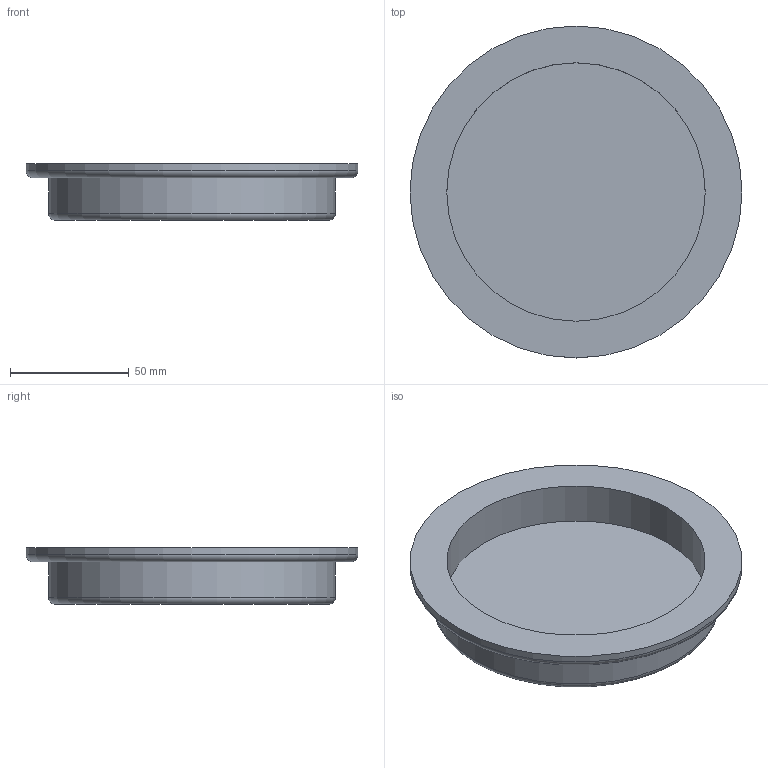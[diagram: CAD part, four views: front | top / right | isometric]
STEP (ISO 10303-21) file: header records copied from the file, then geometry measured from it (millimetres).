
FILE_DESCRIPTION((''),'2;1');
FILE_NAME('U:\Wolfgang\Marcel-3D\fertig\Kapitel 4\1201140.stp','2011-04-21T08:26:27',('TK1'),(''),'Autodesk Inventor 2010','Autodesk Inventor 2010','');
FILE_SCHEMA(('AUTOMOTIVE_DESIGN { 1 0 10303 214 1 1 1 1 }'));
Length unit declared in the file: millimetre
Products named in the file (1): 1201140
Bounding box: 140 x 140 x 24 mm (x, y, z)
Volume: 129814 mm3; surface area: 45368.9 mm2
Topology: 1 solids, 1 shells, 9 faces, 13 edges, 8 vertices
Faces by surface type: plane 4, cylinder 3, torus 2
Full cylindrical faces by diameter (mm): 109 x1, 121 x1, 140 x1
Entity records: 200 total; most frequent: DIRECTION 36, CARTESIAN_POINT 26, AXIS2_PLACEMENT_3D 18, ORIENTED_EDGE 16, EDGE_LOOP 16, FACE_OUTER_BOUND 9, ADVANCED_FACE 9, VERTEX_POINT 8
